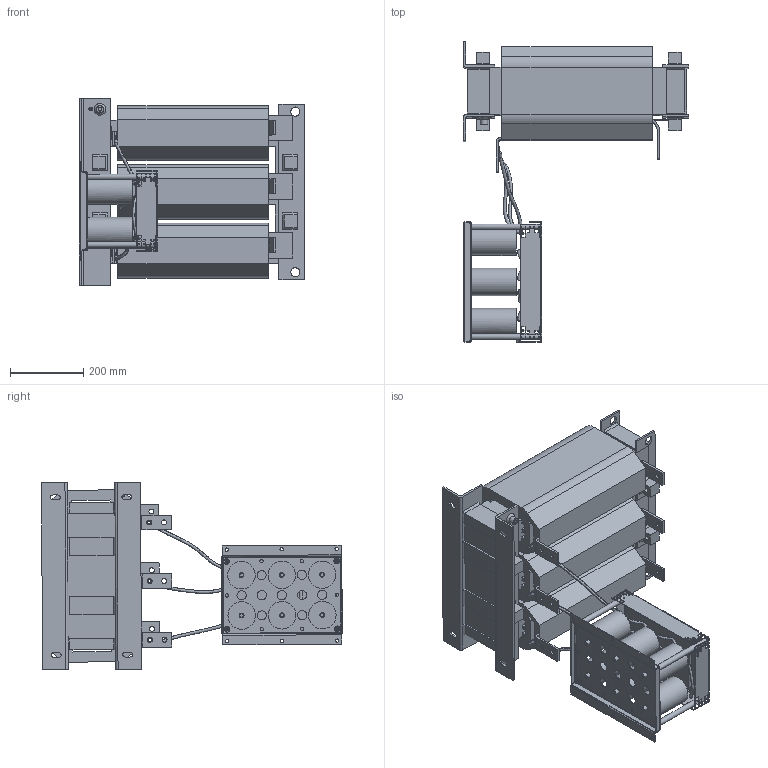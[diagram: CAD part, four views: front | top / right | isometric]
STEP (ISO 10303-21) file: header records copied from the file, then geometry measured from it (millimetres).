
FILE_DESCRIPTION((''),'2;1');
FILE_NAME('P:\Construction\Filter_Marketing\FN\FN5040\FN5040-480-99\new\FN5040-480-99.stp','2015-04-13T15:56:04',('Samuel.Meier'),(''),'Autodesk Inventor 2013','Autodesk Inventor 2013','');
FILE_SCHEMA(('AUTOMOTIVE_DESIGN { 1 0 10303 214 1 1 1 1 }'));
Length unit declared in the file: millimetre
Products named in the file (4): Baugruppe3; ASSEMBLY; CABLES; CAPS
Assembly tree (3 placements, depth 2):
  Baugruppe3
    ASSEMBLY
    CABLES
    CAPS
Bounding box: 614 x 821.02 x 511.49 mm (x, y, z)
Volume: 47421050.4 mm3; surface area: 4529418 mm2
Topology: 13 solids, 49 shells, 1488 faces, 4541 edges, 2913 vertices
Faces by surface type: plane 1059, cylinder 317, bspline 84, cone 16, torus 12
Full cylindrical faces by diameter (mm): 6.647 x8, 7.1 x3, 8.3 x3, 9 x17, 9.5 x3, 10 x6, 12 x6, 13 x6, 13.5 x9, 14 x8, 15 x4, 20 x1, 25 x13, 75 x6
Entity records: 68831 total; most frequent: CARTESIAN_POINT 26458, ORIENTED_EDGE 8726, DIRECTION 7738, EDGE_CURVE 4387, VECTOR 3508, LINE 3508, VERTEX_POINT 2868, AXIS2_PLACEMENT_3D 2115
